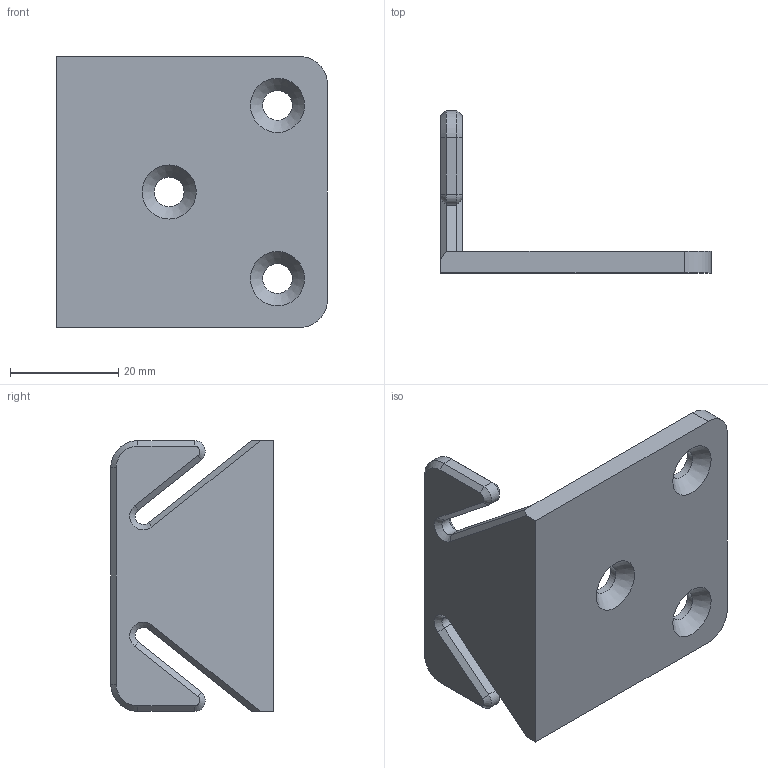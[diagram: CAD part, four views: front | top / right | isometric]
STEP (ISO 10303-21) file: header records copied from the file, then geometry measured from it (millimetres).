
FILE_DESCRIPTION( ( 'Unknown' ), '1' );
FILE_NAME( 'F:/navkite transat/construction/2016/3D ET ASSEMBLAGES/self tailing/WI 19.stp', 'Unknown', ( 'GMA' ), ( 'Unknown' ), 'XStep 1.0', 'Unknown', ' ' );
FILE_SCHEMA( ( 'automotive_design' ) );
Length unit declared in the file: millimetre
Products named in the file (1): 1
Bounding box: 50 x 30 x 50 mm (x, y, z)
Volume: 13843.1 mm3; surface area: 8339.1 mm2
Topology: 1 solids, 1 shells, 54 faces, 130 edges, 78 vertices
Faces by surface type: plane 28, cone 15, cylinder 11
Full cylindrical faces by diameter (mm): 5.5 x3
Entity records: 1946 total; most frequent: DIRECTION 268, CARTESIAN_POINT 251, ORIENTED_EDGE 242, EDGE_CURVE 121, AXIS2_PLACEMENT_3D 92, LINE 84, VECTOR 84, VERTEX_POINT 75
